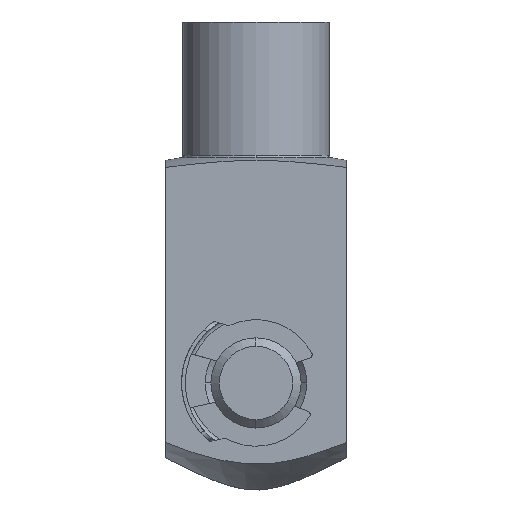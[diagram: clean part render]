
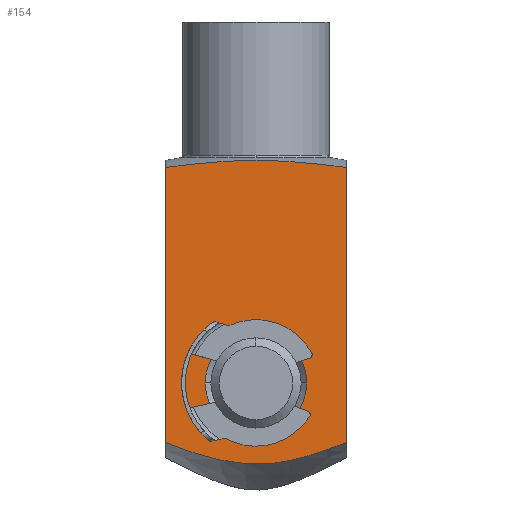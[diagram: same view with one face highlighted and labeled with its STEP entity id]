
A CAD part, left-side view. The second image highlights one B-rep face of the part: STEP entity #154.
In plain terms, the highlighted planar face has unit normal (-1, 0, 0).
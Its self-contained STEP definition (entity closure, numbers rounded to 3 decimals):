
#20 = B_SPLINE_CURVE_WITH_KNOTS ( 'NONE', 3,
 ( #2317, #2528, #1501, #1990, #2483, #2962 ),
 .UNSPECIFIED., .F., .F.,
 ( 4, 2, 4 ),
 ( 0., 0.008, 0.016 ),
 .UNSPECIFIED. ) ;
#55 = CARTESIAN_POINT ( 'NONE',  ( -16., 9.52, 6.109 ) ) ;
#72 = CARTESIAN_POINT ( 'NONE',  ( -16., -16., 8.445 ) ) ;
#115 = DIRECTION ( 'NONE',  ( 1., 0., 0. ) ) ;
#154 = ADVANCED_FACE ( 'NONE', ( #1824, #2800 ), #212, .T. ) ;
#174 = DIRECTION ( 'NONE',  ( 0., -1., 0. ) ) ;
#212 = PLANE ( 'NONE',  #2328 ) ;
#218 = CARTESIAN_POINT ( 'NONE',  ( -16., 16., 31.54 ) ) ;
#238 = CARTESIAN_POINT ( 'NONE',  ( -16., -10.801, 6.522 ) ) ;
#243 = VERTEX_POINT ( 'NONE', #905 ) ;
#287 = CARTESIAN_POINT ( 'NONE',  ( -16., -1.377, 4.619 ) ) ;
#296 = VECTOR ( 'NONE', #2132, 1000. ) ;
#308 = DIRECTION ( 'NONE',  ( 0., -1., 0. ) ) ;
#317 = CARTESIAN_POINT ( 'NONE',  ( -16., 13.344, 57.565 ) ) ;
#325 = EDGE_CURVE ( 'NONE', #1995, #601, #20, .T. ) ;
#330 = LINE ( 'NONE', #1821, #296 ) ;
#437 = EDGE_CURVE ( 'NONE', #1660, #1995, #330, .T. ) ;
#465 = CARTESIAN_POINT ( 'NONE',  ( -16., -9.476, 6.113 ) ) ;
#502 = CARTESIAN_POINT ( 'NONE',  ( -16., 10.831, 6.52 ) ) ;
#535 = CARTESIAN_POINT ( 'NONE',  ( -16., 0., 19. ) ) ;
#561 = CARTESIAN_POINT ( 'NONE',  ( -16., -16., 8.445 ) ) ;
#601 = VERTEX_POINT ( 'NONE', #1734 ) ;
#625 = EDGE_CURVE ( 'NONE', #243, #1660, #2985, .T. ) ;
#708 = CARTESIAN_POINT ( 'NONE',  ( -16., 6.863, 5.41 ) ) ;
#713 = CARTESIAN_POINT ( 'NONE',  ( -16., -16., 4.105 ) ) ;
#787 = CARTESIAN_POINT ( 'NONE',  ( -16., 2.682, 58.444 ) ) ;
#905 = CARTESIAN_POINT ( 'NONE',  ( -16., 16., 8.445 ) ) ;
#915 = EDGE_CURVE ( 'NONE', #1711, #243, #1248, .T. ) ;
#1016 = CARTESIAN_POINT ( 'NONE',  ( -16., 1.38, 4.645 ) ) ;
#1076 = CARTESIAN_POINT ( 'NONE',  ( -16., 0., 19. ) ) ;
#1141 = ORIENTED_EDGE ( 'NONE', *, *, #325, .T. ) ;
#1202 = DIRECTION ( 'NONE',  ( 0., 0., -1. ) ) ;
#1248 = LINE ( 'NONE', #218, #1592 ) ;
#1337 = EDGE_CURVE ( 'NONE', #601, #1711, #2455, .T. ) ;
#1395 = EDGE_CURVE ( 'NONE', #2754, #2443, #2252, .T. ) ;
#1447 = CARTESIAN_POINT ( 'NONE',  ( -16., -9., 19. ) ) ;
#1489 = ORIENTED_EDGE ( 'NONE', *, *, #625, .T. ) ;
#1497 = CARTESIAN_POINT ( 'NONE',  ( -16., 5.517, 5.123 ) ) ;
#1501 = CARTESIAN_POINT ( 'NONE',  ( -16., -10.686, 57.872 ) ) ;
#1592 = VECTOR ( 'NONE', #1202, 1000. ) ;
#1616 = CARTESIAN_POINT ( 'NONE',  ( -16., -14.716, 7.921 ) ) ;
#1660 = VERTEX_POINT ( 'NONE', #72 ) ;
#1692 = ORIENTED_EDGE ( 'NONE', *, *, #1337, .T. ) ;
#1704 = DIRECTION ( 'NONE',  ( -1., 0., 0. ) ) ;
#1711 = VERTEX_POINT ( 'NONE', #1820 ) ;
#1717 = CARTESIAN_POINT ( 'NONE',  ( -16., 0.689, 4.619 ) ) ;
#1734 = CARTESIAN_POINT ( 'NONE',  ( -16., 0., 58.444 ) ) ;
#1753 = CARTESIAN_POINT ( 'NONE',  ( -16., 16., 8.445 ) ) ;
#1786 = ORIENTED_EDGE ( 'NONE', *, *, #915, .T. ) ;
#1807 = CARTESIAN_POINT ( 'NONE',  ( -16., 10.686, 57.872 ) ) ;
#1820 = CARTESIAN_POINT ( 'NONE',  ( -16., 16., 57.217 ) ) ;
#1821 = CARTESIAN_POINT ( 'NONE',  ( -16., -16., 31.54 ) ) ;
#1824 = FACE_BOUND ( 'NONE', #2090, .T. ) ;
#1990 = CARTESIAN_POINT ( 'NONE',  ( -16., -5.355, 58.314 ) ) ;
#1995 = VERTEX_POINT ( 'NONE', #3108 ) ;
#2008 = CARTESIAN_POINT ( 'NONE',  ( -16., 16., 57.217 ) ) ;
#2025 = CARTESIAN_POINT ( 'NONE',  ( -16., 5.355, 58.314 ) ) ;
#2032 = CARTESIAN_POINT ( 'NONE',  ( -16., -6.8, 5.395 ) ) ;
#2090 = EDGE_LOOP ( 'NONE', ( #3074, #2715 ) ) ;
#2132 = DIRECTION ( 'NONE',  ( 0., 0., 1. ) ) ;
#2223 = EDGE_LOOP ( 'NONE', ( #1141, #1692, #1786, #1489, #3029 ) ) ;
#2252 = CIRCLE ( 'NONE', #3014, 9. ) ;
#2260 = CARTESIAN_POINT ( 'NONE',  ( -16., 2.768, 4.748 ) ) ;
#2276 = CARTESIAN_POINT ( 'NONE',  ( -16., -5.454, 5.111 ) ) ;
#2291 = CARTESIAN_POINT ( 'NONE',  ( -16., 14.719, 7.922 ) ) ;
#2317 = CARTESIAN_POINT ( 'NONE',  ( -16., -16., 57.217 ) ) ;
#2328 = AXIS2_PLACEMENT_3D ( 'NONE', #713, #1704, #2898 ) ;
#2443 = VERTEX_POINT ( 'NONE', #1447 ) ;
#2455 = B_SPLINE_CURVE_WITH_KNOTS ( 'NONE', 3,
 ( #2756, #787, #2025, #1807, #317, #2008 ),
 .UNSPECIFIED., .F., .F.,
 ( 4, 2, 4 ),
 ( 0.016, 0.024, 0.032 ),
 .UNSPECIFIED. ) ;
#2457 = CARTESIAN_POINT ( 'NONE',  ( -16., -8.808, 5.92 ) ) ;
#2483 = CARTESIAN_POINT ( 'NONE',  ( -16., -2.682, 58.444 ) ) ;
#2492 = CARTESIAN_POINT ( 'NONE',  ( -16., 3.462, 4.825 ) ) ;
#2528 = CARTESIAN_POINT ( 'NONE',  ( -16., -13.344, 57.565 ) ) ;
#2553 = CARTESIAN_POINT ( 'NONE',  ( -16., -13.422, 7.424 ) ) ;
#2704 = CARTESIAN_POINT ( 'NONE',  ( -16., -2.742, 4.723 ) ) ;
#2715 = ORIENTED_EDGE ( 'NONE', *, *, #1395, .T. ) ;
#2731 = AXIS2_PLACEMENT_3D ( 'NONE', #1076, #115, #174 ) ;
#2754 = VERTEX_POINT ( 'NONE', #3162 ) ;
#2756 = CARTESIAN_POINT ( 'NONE',  ( -16., 0., 58.444 ) ) ;
#2763 = CARTESIAN_POINT ( 'NONE',  ( -16., 13.431, 7.427 ) ) ;
#2800 = FACE_OUTER_BOUND ( 'NONE', #2223, .T. ) ;
#2829 = CIRCLE ( 'NONE', #2731, 9. ) ;
#2857 = EDGE_CURVE ( 'NONE', #2443, #2754, #2829, .T. ) ;
#2898 = DIRECTION ( 'NONE',  ( 0., 0., 1. ) ) ;
#2962 = CARTESIAN_POINT ( 'NONE',  ( -16., 0., 58.444 ) ) ;
#2985 = B_SPLINE_CURVE_WITH_KNOTS ( 'NONE', 3,
 ( #1753, #2291, #2763, #502, #55, #708, #1497, #2492, #2260, #1016, #1717, #287, #2704, #2276, #2032, #2457, #465, #238, #3006, #2553, #1616, #561 ),
 .UNSPECIFIED., .F., .F.,
 ( 4, 2, 2, 2, 2, 2, 2, 2, 2, 2, 4 ),
 ( 0., 0.004, 0.008, 0.012, 0.014, 0.016, 0.021, 0.025, 0.027, 0.029, 0.033 ),
 .UNSPECIFIED. ) ;
#3006 = CARTESIAN_POINT ( 'NONE',  ( -16., -11.459, 6.74 ) ) ;
#3014 = AXIS2_PLACEMENT_3D ( 'NONE', #535, #3028, #308 ) ;
#3028 = DIRECTION ( 'NONE',  ( 1., 0., 0. ) ) ;
#3029 = ORIENTED_EDGE ( 'NONE', *, *, #437, .T. ) ;
#3074 = ORIENTED_EDGE ( 'NONE', *, *, #2857, .T. ) ;
#3108 = CARTESIAN_POINT ( 'NONE',  ( -16., -16., 57.217 ) ) ;
#3162 = CARTESIAN_POINT ( 'NONE',  ( -16., 9., 19. ) ) ;
